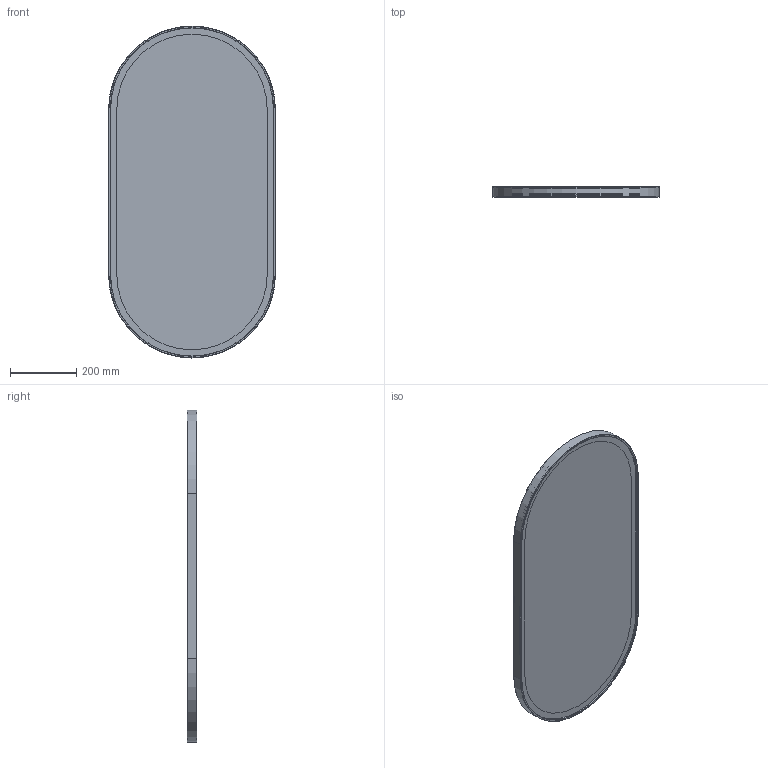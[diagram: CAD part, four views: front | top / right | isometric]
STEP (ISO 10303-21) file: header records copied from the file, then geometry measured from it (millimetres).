
FILE_DESCRIPTION(/* description */ ('Unknown'),/* implementation_level */ '2;1');
FILE_NAME(/* name */ 'Bold-LUX',/* time_stamp */ '2026-01-08T14:48:50+01:00',/* author */ ('Mariusz Kirko'),/* organization */ ('Kraft'),/* preprocessor_version */ 'ST-DEVELOPER v19.4',/* originating_system */ 'Solid Edge',/* authorisation */ 'Unknown');
FILE_SCHEMA (('AUTOMOTIVE_DESIGN {1 0 10303 214 3 1 1}'));
Length unit declared in the file: millimetre
Products named in the file (7): Z³o¿enie plus zawieszka plus zaœlepka; Ramka; Piaskowanie; Lustro; Ramka HIPS; Zakrywka; 300x20
Assembly tree (6 placements, depth 2):
  Z³o¿enie plus zawieszka plus zaœlepka
    Ramka
    Piaskowanie
    Lustro
    Ramka HIPS
    Zakrywka
    300x20
Bounding box: 506 x 30 x 1006 mm (x, y, z)
Volume: 2432197.7 mm3; surface area: 1527250.5 mm2
Topology: 6 solids, 6 shells, 125 faces, 320 edges, 208 vertices
Faces by surface type: plane 65, cylinder 52, torus 8
Entity records: 4041 total; most frequent: DIRECTION 696, CARTESIAN_POINT 660, ORIENTED_EDGE 640, EDGE_CURVE 320, AXIS2_PLACEMENT_3D 244, VERTEX_POINT 208, LINE 208, VECTOR 208
